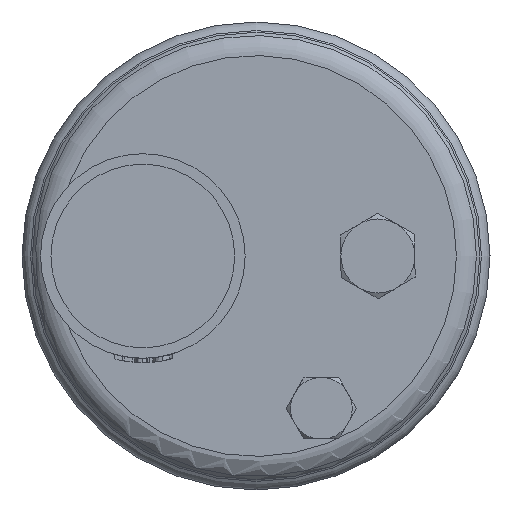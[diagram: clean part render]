
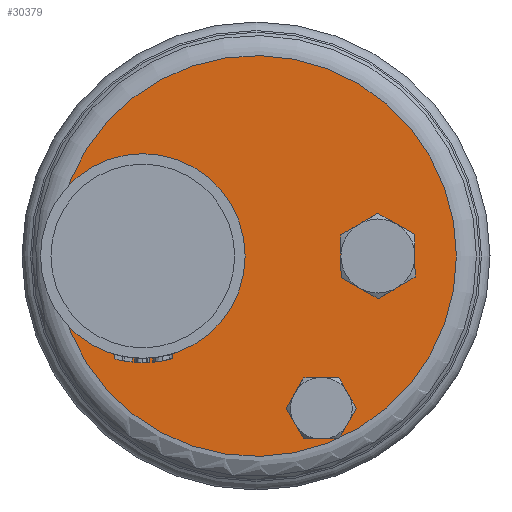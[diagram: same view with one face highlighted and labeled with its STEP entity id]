
A CAD part, front view. The second image highlights one B-rep face of the part: STEP entity #30379.
In plain terms, the highlighted planar face has unit normal (0, -1, 0).
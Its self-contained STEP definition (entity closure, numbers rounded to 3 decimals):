
#2224=FACE_BOUND('',#4244,.T.);
#2225=FACE_BOUND('',#4245,.T.);
#2446=FACE_OUTER_BOUND('',#4243,.T.);
#4243=EDGE_LOOP('',(#19888,#19889,#19890,#19891));
#4244=EDGE_LOOP('',(#19892));
#4245=EDGE_LOOP('',(#19893));
#10609=CIRCLE('',#32172,20.088);
#10611=CIRCLE('',#32174,20.088);
#10615=CIRCLE('',#32185,46.035);
#10618=CIRCLE('',#32193,8.);
#10619=CIRCLE('',#32194,6.);
#11453=ELLIPSE('',#32190,20.19,20.19);
#11866=VERTEX_POINT('',#41650);
#11868=VERTEX_POINT('',#41653);
#11869=VERTEX_POINT('',#41655);
#11870=VERTEX_POINT('',#41657);
#11876=VERTEX_POINT('',#41684);
#11877=VERTEX_POINT('',#41686);
#15070=EDGE_CURVE('',#11868,#11866,#10609,.T.);
#15072=EDGE_CURVE('',#11870,#11869,#10611,.T.);
#15082=EDGE_CURVE('',#11869,#11868,#10615,.T.);
#15085=EDGE_CURVE('',#11866,#11870,#11453,.T.);
#15086=EDGE_CURVE('',#11876,#11876,#10618,.T.);
#15087=EDGE_CURVE('',#11877,#11877,#10619,.T.);
#19888=ORIENTED_EDGE('',*,*,#15070,.T.);
#19889=ORIENTED_EDGE('',*,*,#15085,.T.);
#19890=ORIENTED_EDGE('',*,*,#15072,.T.);
#19891=ORIENTED_EDGE('',*,*,#15082,.T.);
#19892=ORIENTED_EDGE('',*,*,#15086,.F.);
#19893=ORIENTED_EDGE('',*,*,#15087,.F.);
#29446=PLANE('',#32192);
#30379=ADVANCED_FACE('',(#2446,#2224,#2225),#29446,.T.);
#32172=AXIS2_PLACEMENT_3D('',#41654,#34606,#34607);
#32174=AXIS2_PLACEMENT_3D('',#41658,#34610,#34611);
#32185=AXIS2_PLACEMENT_3D('',#41676,#34634,#34635);
#32190=AXIS2_PLACEMENT_3D('',#41681,#34644,#34645);
#32192=AXIS2_PLACEMENT_3D('',#41683,#34648,#34649);
#32193=AXIS2_PLACEMENT_3D('',#41685,#34650,#34651);
#32194=AXIS2_PLACEMENT_3D('',#41687,#34652,#34653);
#34606=DIRECTION('center_axis',(0.,1.,0.));
#34607=DIRECTION('ref_axis',(-1.,0.,0.));
#34610=DIRECTION('center_axis',(0.,1.,0.));
#34611=DIRECTION('ref_axis',(-1.,0.,0.));
#34634=DIRECTION('center_axis',(0.,-1.,0.));
#34635=DIRECTION('ref_axis',(1.,0.,0.));
#34644=DIRECTION('center_axis',(0.,1.,0.));
#34645=DIRECTION('ref_axis',(1.,0.,0.));
#34648=DIRECTION('center_axis',(0.,-1.,0.));
#34649=DIRECTION('ref_axis',(0.,0.,1.));
#34650=DIRECTION('center_axis',(0.,-1.,0.));
#34651=DIRECTION('ref_axis',(-1.,0.,0.));
#34652=DIRECTION('center_axis',(0.,-1.,0.));
#34653=DIRECTION('ref_axis',(-0.896,0.,0.444));
#41650=CARTESIAN_POINT('',(9.347,-6.005,13.739));
#41653=CARTESIAN_POINT('',(4.007,-6.005,1.931));
#41654=CARTESIAN_POINT('Origin',(24.002,-6.005,0.));
#41655=CARTESIAN_POINT('',(4.007,-6.005,-1.931));
#41657=CARTESIAN_POINT('',(9.347,-6.005,-13.739));
#41658=CARTESIAN_POINT('Origin',(24.002,-6.005,0.));
#41676=CARTESIAN_POINT('Origin',(50.002,-6.005,0.));
#41681=CARTESIAN_POINT('Origin',(24.142,-6.005,0.));
#41683=CARTESIAN_POINT('Origin',(73.019,-6.005,0.));
#41684=CARTESIAN_POINT('',(70.002,-6.005,0.));
#41685=CARTESIAN_POINT('Origin',(78.002,-6.005,0.));
#41686=CARTESIAN_POINT('',(59.625,-6.005,-32.336));
#41687=CARTESIAN_POINT('Origin',(65.002,-6.005,-35.));
